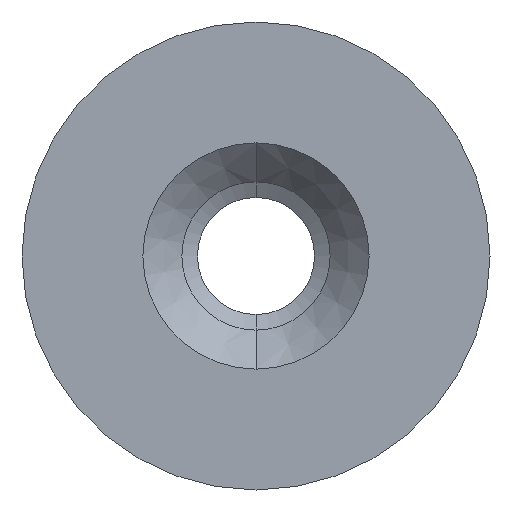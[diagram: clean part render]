
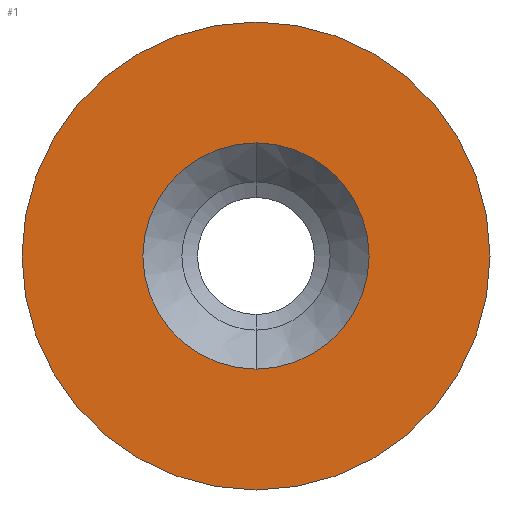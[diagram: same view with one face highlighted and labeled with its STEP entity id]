
A CAD part, front view. The second image highlights one B-rep face of the part: STEP entity #1.
In plain terms, the highlighted planar face has unit normal (0, -1, 0).
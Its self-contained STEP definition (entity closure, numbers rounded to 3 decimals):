
#1 = ADVANCED_FACE ( 'NONE', ( #86, #39 ), #96, .F. ) ;
#2 = EDGE_LOOP ( 'NONE', ( #396, #40 ) ) ;
#9 = CARTESIAN_POINT ( 'NONE',  ( 0., 0., -1.45 ) ) ;
#17 = VERTEX_POINT ( 'NONE', #355 ) ;
#21 = AXIS2_PLACEMENT_3D ( 'NONE', #373, #407, #225 ) ;
#36 = DIRECTION ( 'NONE',  ( 0., 0., -1. ) ) ;
#39 = FACE_OUTER_BOUND ( 'NONE', #2, .T. ) ;
#40 = ORIENTED_EDGE ( 'NONE', *, *, #397, .T. ) ;
#50 = CARTESIAN_POINT ( 'NONE',  ( 0., 0., 0. ) ) ;
#51 = AXIS2_PLACEMENT_3D ( 'NONE', #270, #115, #492 ) ;
#56 = DIRECTION ( 'NONE',  ( 0., -1., 0. ) ) ;
#65 = CARTESIAN_POINT ( 'NONE',  ( 0., 0., 0. ) ) ;
#70 = CARTESIAN_POINT ( 'NONE',  ( 0., 0., 3. ) ) ;
#86 = FACE_BOUND ( 'NONE', #231, .T. ) ;
#96 = PLANE ( 'NONE',  #456 ) ;
#113 = CIRCLE ( 'NONE', #51, 1.45 ) ;
#115 = DIRECTION ( 'NONE',  ( 0., -1., 0. ) ) ;
#169 = DIRECTION ( 'NONE',  ( 0., 0., -1. ) ) ;
#225 = DIRECTION ( 'NONE',  ( 0., 0., -1. ) ) ;
#231 = EDGE_LOOP ( 'NONE', ( #276, #413 ) ) ;
#260 = VERTEX_POINT ( 'NONE', #9 ) ;
#261 = EDGE_CURVE ( 'NONE', #17, #390, #490, .T. ) ;
#269 = AXIS2_PLACEMENT_3D ( 'NONE', #65, #478, #36 ) ;
#270 = CARTESIAN_POINT ( 'NONE',  ( 0., 0., 0. ) ) ;
#276 = ORIENTED_EDGE ( 'NONE', *, *, #306, .F. ) ;
#287 = CARTESIAN_POINT ( 'NONE',  ( -1.45, 0., 0. ) ) ;
#306 = EDGE_CURVE ( 'NONE', #260, #421, #113, .T. ) ;
#311 = EDGE_CURVE ( 'NONE', #421, #260, #360, .T. ) ;
#320 = DIRECTION ( 'NONE',  ( 0., 0., 1. ) ) ;
#355 = CARTESIAN_POINT ( 'NONE',  ( 0., 0., -3. ) ) ;
#360 = CIRCLE ( 'NONE', #443, 1.45 ) ;
#373 = CARTESIAN_POINT ( 'NONE',  ( 0., 0., 0. ) ) ;
#386 = CIRCLE ( 'NONE', #269, 3. ) ;
#390 = VERTEX_POINT ( 'NONE', #70 ) ;
#396 = ORIENTED_EDGE ( 'NONE', *, *, #261, .T. ) ;
#397 = EDGE_CURVE ( 'NONE', #390, #17, #386, .T. ) ;
#407 = DIRECTION ( 'NONE',  ( 0., -1., 0. ) ) ;
#413 = ORIENTED_EDGE ( 'NONE', *, *, #311, .F. ) ;
#421 = VERTEX_POINT ( 'NONE', #457 ) ;
#443 = AXIS2_PLACEMENT_3D ( 'NONE', #50, #56, #169 ) ;
#456 = AXIS2_PLACEMENT_3D ( 'NONE', #287, #469, #320 ) ;
#457 = CARTESIAN_POINT ( 'NONE',  ( 0., 0., 1.45 ) ) ;
#469 = DIRECTION ( 'NONE',  ( 0., 1., 0. ) ) ;
#478 = DIRECTION ( 'NONE',  ( 0., -1., 0. ) ) ;
#490 = CIRCLE ( 'NONE', #21, 3. ) ;
#492 = DIRECTION ( 'NONE',  ( 0., 0., -1. ) ) ;
